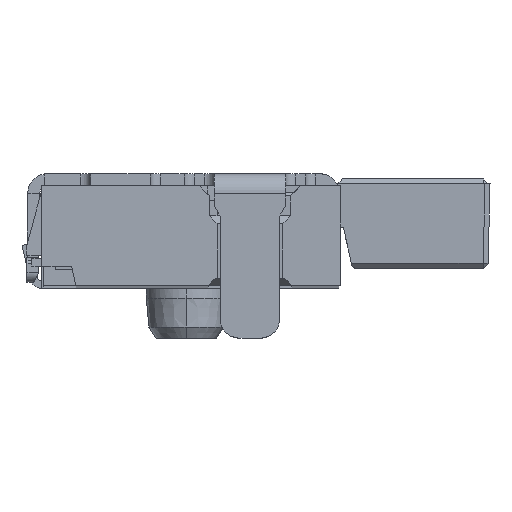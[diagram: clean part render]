
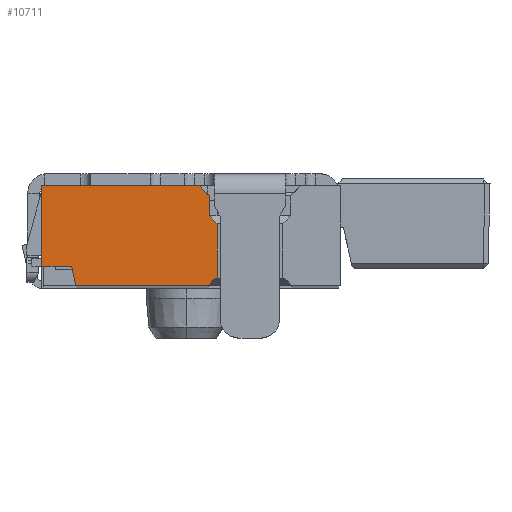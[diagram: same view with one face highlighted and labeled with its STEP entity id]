
A CAD part, left-side view. The second image highlights one B-rep face of the part: STEP entity #10711.
In plain terms, the highlighted planar face has unit normal (-1, 0, 0).
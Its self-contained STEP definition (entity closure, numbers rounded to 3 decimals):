
#7845 = CARTESIAN_POINT ( 'NONE',  ( -4.525, -0.17, 0.03 ) ) ;
#7850 = CARTESIAN_POINT ( 'NONE',  ( -4.525, -0.26, 0.65 ) ) ;
#7851 = DIRECTION ( 'NONE',  ( 0., -0.707, -0.707 ) ) ;
#7852 = VECTOR ( 'NONE', #7851, 1000. ) ;
#7879 = CARTESIAN_POINT ( 'NONE',  ( -4.525, -0.18, 0.73 ) ) ;
#7880 = LINE ( 'NONE', #7879, #7852 ) ;
#7958 = CARTESIAN_POINT ( 'NONE',  ( -4.525, 1.157, 0.03 ) ) ;
#7960 = CARTESIAN_POINT ( 'NONE',  ( -4.525, -0.18, 0.73 ) ) ;
#7997 = CARTESIAN_POINT ( 'NONE',  ( -4.525, 1.2, 0.224 ) ) ;
#7998 = DIRECTION ( 'NONE',  ( 0., 0.218, 0.976 ) ) ;
#7999 = VECTOR ( 'NONE', #7998, 1000. ) ;
#8000 = CARTESIAN_POINT ( 'NONE',  ( -4.525, 1.157, 0.03 ) ) ;
#8001 = LINE ( 'NONE', #8000, #7999 ) ;
#8123 = VECTOR ( 'NONE', #8128, 1000. ) ;
#8124 = CARTESIAN_POINT ( 'NONE',  ( -4.525, -0.26, 0.03 ) ) ;
#8128 = DIRECTION ( 'NONE',  ( 0., 1., 0. ) ) ;
#8157 = LINE ( 'NONE', #8124, #8123 ) ;
#8170 = DIRECTION ( 'NONE',  ( 0., -0.707, -0.707 ) ) ;
#8184 = VECTOR ( 'NONE', #8170, 1000. ) ;
#8185 = CARTESIAN_POINT ( 'NONE',  ( -4.525, -0.08, 1.03 ) ) ;
#8186 = LINE ( 'NONE', #8185, #8184 ) ;
#8248 = CARTESIAN_POINT ( 'NONE',  ( -4.525, -0.18, 0.93 ) ) ;
#8249 = DIRECTION ( 'NONE',  ( 0., 0., -1. ) ) ;
#8263 = CARTESIAN_POINT ( 'NONE',  ( -4.525, -0.18, 0.03 ) ) ;
#8264 = LINE ( 'NONE', #8263, #8294 ) ;
#8281 = CARTESIAN_POINT ( 'NONE',  ( -4.525, -0.08, 1.03 ) ) ;
#8294 = VECTOR ( 'NONE', #8249, 1000. ) ;
#8479 = VECTOR ( 'NONE', #8531, 1000. ) ;
#8480 = CARTESIAN_POINT ( 'NONE',  ( -4.525, -0.24, 0.1 ) ) ;
#8481 = LINE ( 'NONE', #8480, #8479 ) ;
#8531 = DIRECTION ( 'NONE',  ( 0., 0.707, -0.707 ) ) ;
#8590 = CARTESIAN_POINT ( 'NONE',  ( -4.525, -0.24, 0.1 ) ) ;
#8601 = CARTESIAN_POINT ( 'NONE',  ( -4.525, -0.26, 0.1 ) ) ;
#10711 = ADVANCED_FACE ( 'NONE', ( #31807 ), #31777, .F. ) ;
#10714 = EDGE_LOOP ( 'NONE', ( #10840, #10841, #10842, #10843, #10844, #10847, #10849, #10850, #11019, #11020, #11024 ) ) ;
#10840 = ORIENTED_EDGE ( 'NONE', *, *, #28623, .F. ) ;
#10841 = ORIENTED_EDGE ( 'NONE', *, *, #28752, .F. ) ;
#10842 = ORIENTED_EDGE ( 'NONE', *, *, #28725, .F. ) ;
#10843 = ORIENTED_EDGE ( 'NONE', *, *, #11061, .F. ) ;
#10844 = ORIENTED_EDGE ( 'NONE', *, *, #10845, .T. ) ;
#10845 = EDGE_CURVE ( 'NONE', #10867, #10846, #32019, .T. ) ;
#10846 = VERTEX_POINT ( 'NONE', #32032 ) ;
#10847 = ORIENTED_EDGE ( 'NONE', *, *, #10848, .T. ) ;
#10848 = EDGE_CURVE ( 'NONE', #10846, #28659, #31997, .T. ) ;
#10849 = ORIENTED_EDGE ( 'NONE', *, *, #28658, .F. ) ;
#10850 = ORIENTED_EDGE ( 'NONE', *, *, #28693, .F. ) ;
#10867 = VERTEX_POINT ( 'NONE', #32026 ) ;
#11019 = ORIENTED_EDGE ( 'NONE', *, *, #28842, .F. ) ;
#11020 = ORIENTED_EDGE ( 'NONE', *, *, #11022, .T. ) ;
#11022 = EDGE_CURVE ( 'NONE', #28829, #28821, #32192, .T. ) ;
#11024 = ORIENTED_EDGE ( 'NONE', *, *, #28301, .F. ) ;
#11061 = EDGE_CURVE ( 'NONE', #10867, #28757, #32326, .T. ) ;
#25399 = DIRECTION ( 'NONE',  ( 0., 0., -1. ) ) ;
#25400 = VECTOR ( 'NONE', #25399, 1000. ) ;
#25401 = CARTESIAN_POINT ( 'NONE',  ( -4.525, -0.26, 0.03 ) ) ;
#25402 = LINE ( 'NONE', #25401, #25400 ) ;
#28301 = EDGE_CURVE ( 'NONE', #28627, #28821, #25402, .T. ) ;
#28604 = VERTEX_POINT ( 'NONE', #7845 ) ;
#28623 = EDGE_CURVE ( 'NONE', #28644, #28627, #7880, .T. ) ;
#28627 = VERTEX_POINT ( 'NONE', #7850 ) ;
#28633 = VERTEX_POINT ( 'NONE', #7958 ) ;
#28644 = VERTEX_POINT ( 'NONE', #7960 ) ;
#28658 = EDGE_CURVE ( 'NONE', #28633, #28659, #8001, .T. ) ;
#28659 = VERTEX_POINT ( 'NONE', #7997 ) ;
#28693 = EDGE_CURVE ( 'NONE', #28604, #28633, #8157, .T. ) ;
#28725 = EDGE_CURVE ( 'NONE', #28757, #28750, #8186, .T. ) ;
#28750 = VERTEX_POINT ( 'NONE', #8248 ) ;
#28752 = EDGE_CURVE ( 'NONE', #28750, #28644, #8264, .T. ) ;
#28757 = VERTEX_POINT ( 'NONE', #8281 ) ;
#28821 = VERTEX_POINT ( 'NONE', #8601 ) ;
#28829 = VERTEX_POINT ( 'NONE', #8590 ) ;
#28842 = EDGE_CURVE ( 'NONE', #28829, #28604, #8481, .T. ) ;
#31773 = DIRECTION ( 'NONE',  ( 0., 0., -1. ) ) ;
#31774 = DIRECTION ( 'NONE',  ( 1., 0., 0. ) ) ;
#31775 = CARTESIAN_POINT ( 'NONE',  ( -4.525, -0.26, 0.03 ) ) ;
#31776 = AXIS2_PLACEMENT_3D ( 'NONE', #31775, #31774, #31773 ) ;
#31777 = PLANE ( 'NONE',  #31776 ) ;
#31807 = FACE_OUTER_BOUND ( 'NONE', #10714, .T. ) ;
#31987 = VECTOR ( 'NONE', #32005, 1000. ) ;
#31988 = DIRECTION ( 'NONE',  ( 0., -1., 0. ) ) ;
#31991 = CARTESIAN_POINT ( 'NONE',  ( -4.525, 1.5, 0.224 ) ) ;
#31992 = VECTOR ( 'NONE', #31988, 1000. ) ;
#31996 = CARTESIAN_POINT ( 'NONE',  ( -4.525, 1.2, 0.224 ) ) ;
#31997 = LINE ( 'NONE', #31996, #31992 ) ;
#32005 = DIRECTION ( 'NONE',  ( 0., 0., -1. ) ) ;
#32019 = LINE ( 'NONE', #31991, #31987 ) ;
#32026 = CARTESIAN_POINT ( 'NONE',  ( -4.525, 1.5, 1.03 ) ) ;
#32032 = CARTESIAN_POINT ( 'NONE',  ( -4.525, 1.5, 0.224 ) ) ;
#32191 = CARTESIAN_POINT ( 'NONE',  ( -4.525, -0.94, 0.1 ) ) ;
#32192 = LINE ( 'NONE', #32191, #32198 ) ;
#32197 = DIRECTION ( 'NONE',  ( 0., -1., 0. ) ) ;
#32198 = VECTOR ( 'NONE', #32197, 1000. ) ;
#32325 = CARTESIAN_POINT ( 'NONE',  ( -4.525, -0.26, 1.03 ) ) ;
#32326 = LINE ( 'NONE', #32325, #32336 ) ;
#32335 = DIRECTION ( 'NONE',  ( 0., -1., 0. ) ) ;
#32336 = VECTOR ( 'NONE', #32335, 1000. ) ;
